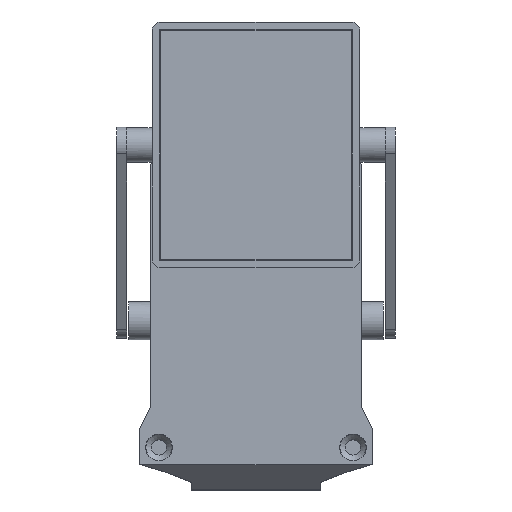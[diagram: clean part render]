
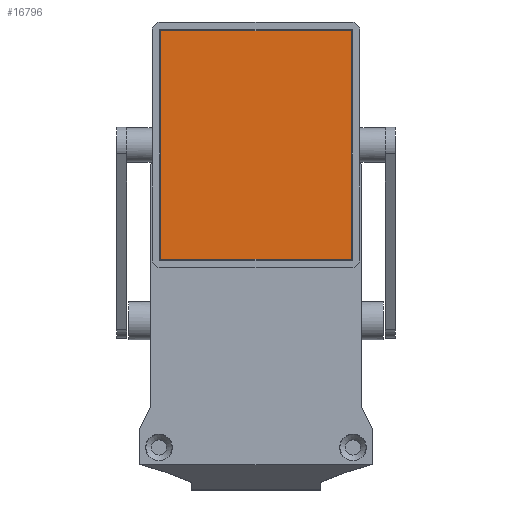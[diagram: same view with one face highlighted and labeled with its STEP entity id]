
A CAD part, top view. The second image highlights one B-rep face of the part: STEP entity #16796.
In plain terms, the highlighted planar face has unit normal (0, 0, 1).
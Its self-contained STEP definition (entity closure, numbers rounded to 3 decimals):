
#16482 = VERTEX_POINT('',#16483);
#16483 = CARTESIAN_POINT('',(-15.,131.2,15.2));
#16490 = PLANE('',#16491);
#16491 = AXIS2_PLACEMENT_3D('',#16492,#16493,#16494);
#16492 = CARTESIAN_POINT('',(-15.,131.2,13.8));
#16493 = DIRECTION('',(1.,0.,-0.));
#16494 = DIRECTION('',(0.,0.,1.));
#16502 = PLANE('',#16503);
#16503 = AXIS2_PLACEMENT_3D('',#16504,#16505,#16506);
#16504 = CARTESIAN_POINT('',(-15.,131.2,13.8));
#16505 = DIRECTION('',(-0.,1.,0.));
#16506 = DIRECTION('',(0.,0.,1.));
#16543 = VERTEX_POINT('',#16544);
#16544 = CARTESIAN_POINT('',(-15.,167.2,15.2));
#16558 = PLANE('',#16559);
#16559 = AXIS2_PLACEMENT_3D('',#16560,#16561,#16562);
#16560 = CARTESIAN_POINT('',(-15.,167.2,13.8));
#16561 = DIRECTION('',(-0.,1.,0.));
#16562 = DIRECTION('',(0.,0.,1.));
#16570 = EDGE_CURVE('',#16482,#16543,#16571,.T.);
#16571 = SURFACE_CURVE('',#16572,(#16576,#16583),.PCURVE_S1.);
#16572 = LINE('',#16573,#16574);
#16573 = CARTESIAN_POINT('',(-15.,131.2,15.2));
#16574 = VECTOR('',#16575,1.);
#16575 = DIRECTION('',(-0.,1.,0.));
#16576 = PCURVE('',#16490,#16577);
#16577 = DEFINITIONAL_REPRESENTATION('',(#16578),#16582);
#16578 = LINE('',#16579,#16580);
#16579 = CARTESIAN_POINT('',(1.4,0.));
#16580 = VECTOR('',#16581,1.);
#16581 = DIRECTION('',(0.,-1.));
#16582 = ( GEOMETRIC_REPRESENTATION_CONTEXT(2) 
PARAMETRIC_REPRESENTATION_CONTEXT() REPRESENTATION_CONTEXT('2D SPACE',''
  ) );
#16583 = PCURVE('',#16584,#16589);
#16584 = PLANE('',#16585);
#16585 = AXIS2_PLACEMENT_3D('',#16586,#16587,#16588);
#16586 = CARTESIAN_POINT('',(-15.,131.2,15.2));
#16587 = DIRECTION('',(0.,0.,1.));
#16588 = DIRECTION('',(1.,0.,-0.));
#16589 = DEFINITIONAL_REPRESENTATION('',(#16590),#16594);
#16590 = LINE('',#16591,#16592);
#16591 = CARTESIAN_POINT('',(0.,0.));
#16592 = VECTOR('',#16593,1.);
#16593 = DIRECTION('',(0.,1.));
#16594 = ( GEOMETRIC_REPRESENTATION_CONTEXT(2) 
PARAMETRIC_REPRESENTATION_CONTEXT() REPRESENTATION_CONTEXT('2D SPACE',''
  ) );
#16602 = VERTEX_POINT('',#16603);
#16603 = CARTESIAN_POINT('',(15.,131.2,15.2));
#16610 = PLANE('',#16611);
#16611 = AXIS2_PLACEMENT_3D('',#16612,#16613,#16614);
#16612 = CARTESIAN_POINT('',(15.,131.2,13.8));
#16613 = DIRECTION('',(1.,0.,-0.));
#16614 = DIRECTION('',(0.,0.,1.));
#16653 = VERTEX_POINT('',#16654);
#16654 = CARTESIAN_POINT('',(15.,167.2,15.2));
#16675 = EDGE_CURVE('',#16602,#16653,#16676,.T.);
#16676 = SURFACE_CURVE('',#16677,(#16681,#16688),.PCURVE_S1.);
#16677 = LINE('',#16678,#16679);
#16678 = CARTESIAN_POINT('',(15.,131.2,15.2));
#16679 = VECTOR('',#16680,1.);
#16680 = DIRECTION('',(-0.,1.,0.));
#16681 = PCURVE('',#16610,#16682);
#16682 = DEFINITIONAL_REPRESENTATION('',(#16683),#16687);
#16683 = LINE('',#16684,#16685);
#16684 = CARTESIAN_POINT('',(1.4,0.));
#16685 = VECTOR('',#16686,1.);
#16686 = DIRECTION('',(0.,-1.));
#16687 = ( GEOMETRIC_REPRESENTATION_CONTEXT(2) 
PARAMETRIC_REPRESENTATION_CONTEXT() REPRESENTATION_CONTEXT('2D SPACE',''
  ) );
#16688 = PCURVE('',#16584,#16689);
#16689 = DEFINITIONAL_REPRESENTATION('',(#16690),#16694);
#16690 = LINE('',#16691,#16692);
#16691 = CARTESIAN_POINT('',(30.,0.));
#16692 = VECTOR('',#16693,1.);
#16693 = DIRECTION('',(0.,1.));
#16694 = ( GEOMETRIC_REPRESENTATION_CONTEXT(2) 
PARAMETRIC_REPRESENTATION_CONTEXT() REPRESENTATION_CONTEXT('2D SPACE',''
  ) );
#16721 = EDGE_CURVE('',#16482,#16602,#16722,.T.);
#16722 = SURFACE_CURVE('',#16723,(#16727,#16734),.PCURVE_S1.);
#16723 = LINE('',#16724,#16725);
#16724 = CARTESIAN_POINT('',(-15.,131.2,15.2));
#16725 = VECTOR('',#16726,1.);
#16726 = DIRECTION('',(1.,0.,-0.));
#16727 = PCURVE('',#16502,#16728);
#16728 = DEFINITIONAL_REPRESENTATION('',(#16729),#16733);
#16729 = LINE('',#16730,#16731);
#16730 = CARTESIAN_POINT('',(1.4,0.));
#16731 = VECTOR('',#16732,1.);
#16732 = DIRECTION('',(0.,1.));
#16733 = ( GEOMETRIC_REPRESENTATION_CONTEXT(2) 
PARAMETRIC_REPRESENTATION_CONTEXT() REPRESENTATION_CONTEXT('2D SPACE',''
  ) );
#16734 = PCURVE('',#16584,#16735);
#16735 = DEFINITIONAL_REPRESENTATION('',(#16736),#16740);
#16736 = LINE('',#16737,#16738);
#16737 = CARTESIAN_POINT('',(0.,0.));
#16738 = VECTOR('',#16739,1.);
#16739 = DIRECTION('',(1.,0.));
#16740 = ( GEOMETRIC_REPRESENTATION_CONTEXT(2) 
PARAMETRIC_REPRESENTATION_CONTEXT() REPRESENTATION_CONTEXT('2D SPACE',''
  ) );
#16768 = EDGE_CURVE('',#16543,#16653,#16769,.T.);
#16769 = SURFACE_CURVE('',#16770,(#16774,#16781),.PCURVE_S1.);
#16770 = LINE('',#16771,#16772);
#16771 = CARTESIAN_POINT('',(-15.,167.2,15.2));
#16772 = VECTOR('',#16773,1.);
#16773 = DIRECTION('',(1.,0.,-0.));
#16774 = PCURVE('',#16558,#16775);
#16775 = DEFINITIONAL_REPRESENTATION('',(#16776),#16780);
#16776 = LINE('',#16777,#16778);
#16777 = CARTESIAN_POINT('',(1.4,0.));
#16778 = VECTOR('',#16779,1.);
#16779 = DIRECTION('',(0.,1.));
#16780 = ( GEOMETRIC_REPRESENTATION_CONTEXT(2) 
PARAMETRIC_REPRESENTATION_CONTEXT() REPRESENTATION_CONTEXT('2D SPACE',''
  ) );
#16781 = PCURVE('',#16584,#16782);
#16782 = DEFINITIONAL_REPRESENTATION('',(#16783),#16787);
#16783 = LINE('',#16784,#16785);
#16784 = CARTESIAN_POINT('',(0.,36.));
#16785 = VECTOR('',#16786,1.);
#16786 = DIRECTION('',(1.,0.));
#16787 = ( GEOMETRIC_REPRESENTATION_CONTEXT(2) 
PARAMETRIC_REPRESENTATION_CONTEXT() REPRESENTATION_CONTEXT('2D SPACE',''
  ) );
#16796 = ADVANCED_FACE('',(#16797),#16584,.T.);
#16797 = FACE_BOUND('',#16798,.T.);
#16798 = EDGE_LOOP('',(#16799,#16800,#16801,#16802));
#16799 = ORIENTED_EDGE('',*,*,#16570,.F.);
#16800 = ORIENTED_EDGE('',*,*,#16721,.T.);
#16801 = ORIENTED_EDGE('',*,*,#16675,.T.);
#16802 = ORIENTED_EDGE('',*,*,#16768,.F.);
